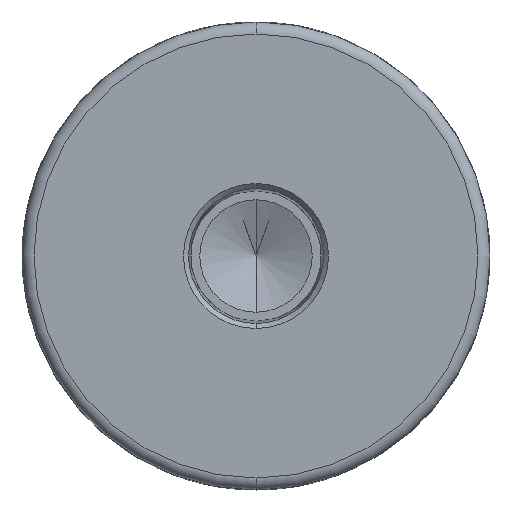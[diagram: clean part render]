
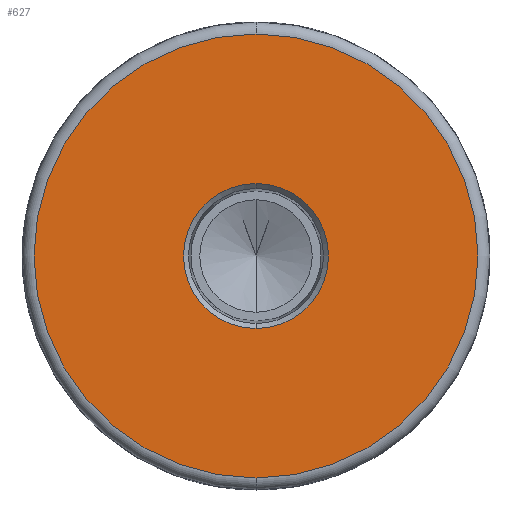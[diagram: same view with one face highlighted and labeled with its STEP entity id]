
A CAD part, front view. The second image highlights one B-rep face of the part: STEP entity #627.
In plain terms, the highlighted planar face has unit normal (0, -1, 0).
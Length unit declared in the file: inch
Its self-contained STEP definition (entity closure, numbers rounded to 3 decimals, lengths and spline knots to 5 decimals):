
#74 = VERTEX_POINT ( 'NONE', #1699 ) ;
#76 = EDGE_CURVE ( 'NONE', #74, #77, #1696, .T. ) ;
#77 = VERTEX_POINT ( 'NONE', #1691 ) ;
#120 = EDGE_CURVE ( 'NONE', #121, #122, #1641, .T. ) ;
#121 = VERTEX_POINT ( 'NONE', #1745 ) ;
#122 = VERTEX_POINT ( 'NONE', #1744 ) ;
#627 = ADVANCED_FACE ( 'NONE', ( #2677, #2814 ), #2812, .F. ) ;
#628 = EDGE_LOOP ( 'NONE', ( #655, #657 ) ) ;
#655 = ORIENTED_EDGE ( 'NONE', *, *, #656, .F. ) ;
#656 = EDGE_CURVE ( 'NONE', #77, #74, #2932, .T. ) ;
#657 = ORIENTED_EDGE ( 'NONE', *, *, #76, .F. ) ;
#725 = EDGE_LOOP ( 'NONE', ( #726, #728 ) ) ;
#726 = ORIENTED_EDGE ( 'NONE', *, *, #727, .T. ) ;
#727 = EDGE_CURVE ( 'NONE', #122, #121, #3222, .T. ) ;
#728 = ORIENTED_EDGE ( 'NONE', *, *, #120, .T. ) ;
#1641 = CIRCLE ( 'NONE', #1748, 1.11 ) ;
#1642 = CARTESIAN_POINT ( 'NONE',  ( 0., 0., 0. ) ) ;
#1691 = CARTESIAN_POINT ( 'NONE',  ( 0., 0., -0.3626 ) ) ;
#1692 = DIRECTION ( 'NONE',  ( 0., 0., -1. ) ) ;
#1693 = DIRECTION ( 'NONE',  ( 0., -1., 0. ) ) ;
#1694 = CARTESIAN_POINT ( 'NONE',  ( 0., 0., 0. ) ) ;
#1695 = AXIS2_PLACEMENT_3D ( 'NONE', #1694, #1693, #1692 ) ;
#1696 = CIRCLE ( 'NONE', #1695, 0.3626 ) ;
#1699 = CARTESIAN_POINT ( 'NONE',  ( 0., 0., 0.3626 ) ) ;
#1744 = CARTESIAN_POINT ( 'NONE',  ( 0., 0., 1.11 ) ) ;
#1745 = CARTESIAN_POINT ( 'NONE',  ( 0., 0., -1.11 ) ) ;
#1746 = DIRECTION ( 'NONE',  ( 0., 0., 1. ) ) ;
#1747 = DIRECTION ( 'NONE',  ( 0., -1., 0. ) ) ;
#1748 = AXIS2_PLACEMENT_3D ( 'NONE', #1642, #1747, #1746 ) ;
#2677 = FACE_BOUND ( 'NONE', #628, .T. ) ;
#2794 = DIRECTION ( 'NONE',  ( 0., 0., 1. ) ) ;
#2795 = DIRECTION ( 'NONE',  ( 0., 1., 0. ) ) ;
#2811 = CARTESIAN_POINT ( 'NONE',  ( 0., 0., 0. ) ) ;
#2812 = PLANE ( 'NONE',  #2813 ) ;
#2813 = AXIS2_PLACEMENT_3D ( 'NONE', #2811, #2795, #2794 ) ;
#2814 = FACE_OUTER_BOUND ( 'NONE', #725, .T. ) ;
#2930 = CARTESIAN_POINT ( 'NONE',  ( 0., 0., 0. ) ) ;
#2931 = AXIS2_PLACEMENT_3D ( 'NONE', #2930, #3083, #3082 ) ;
#2932 = CIRCLE ( 'NONE', #2931, 0.3626 ) ;
#3082 = DIRECTION ( 'NONE',  ( 0., 0., -1. ) ) ;
#3083 = DIRECTION ( 'NONE',  ( 0., -1., 0. ) ) ;
#3134 = DIRECTION ( 'NONE',  ( 0., 0., 1. ) ) ;
#3135 = DIRECTION ( 'NONE',  ( 0., -1., 0. ) ) ;
#3136 = CARTESIAN_POINT ( 'NONE',  ( 0., 0., 0. ) ) ;
#3222 = CIRCLE ( 'NONE', #3236, 1.11 ) ;
#3236 = AXIS2_PLACEMENT_3D ( 'NONE', #3136, #3135, #3134 ) ;
